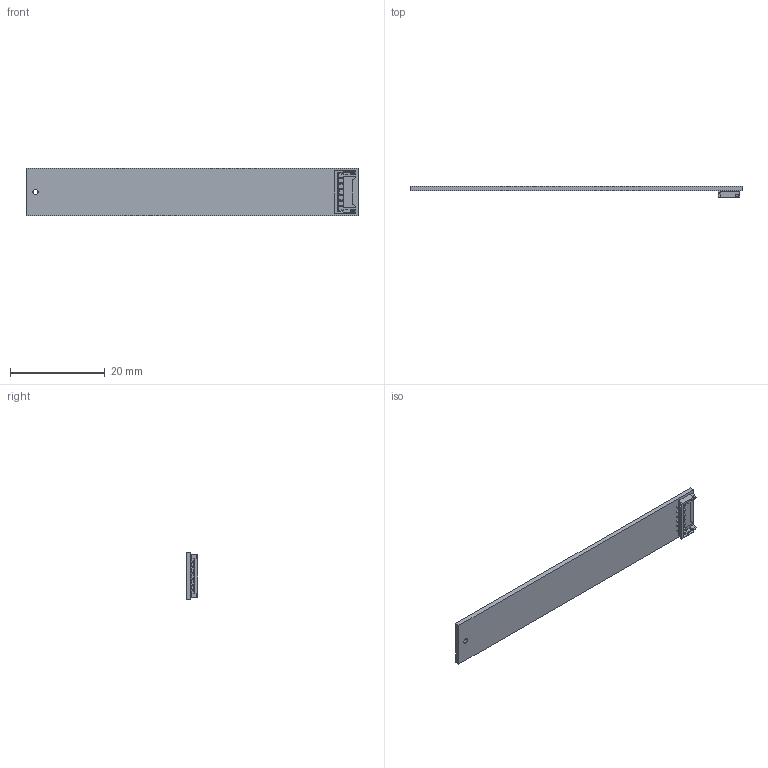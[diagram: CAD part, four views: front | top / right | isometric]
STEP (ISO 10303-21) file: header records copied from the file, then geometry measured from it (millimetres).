
FILE_DESCRIPTION (( 'STEP AP214' ), '1' );
FILE_NAME ('033-2019_0001_(50mm_B6_Linear_Sensor_3D).STEP', '2025-06-02T09:53:02', ( '' ), ( '' ), 'SwSTEP 2.0', 'SolidWorks 2024', '' );
FILE_SCHEMA (( 'AUTOMOTIVE_DESIGN' ));
Length unit declared in the file: millimetre
Products named in the file (3): 033-2019_0001_(50mm_B6_Linear_Sensor_3D); 010-0176_0001_(50mm_B6_LinearSensorPCB); 781715006
Assembly tree (2 placements, depth 2):
  033-2019_0001_(50mm_B6_Linear_Sensor_3D)
    010-0176_0001_(50mm_B6_LinearSensorPCB)
    781715006
Bounding box: 70 x 2.45 x 10 mm (x, y, z)
Volume: 717.1 mm3; surface area: 1696.9 mm2
Topology: 2 solids, 2 shells, 274 faces, 796 edges, 526 vertices
Faces by surface type: plane 264, cylinder 10
Entity records: 9036 total; most frequent: CARTESIAN_POINT 1601, ORIENTED_EDGE 1592, DIRECTION 1374, EDGE_CURVE 796, LINE 776, VECTOR 776, VERTEX_POINT 526, AXIS2_PLACEMENT_3D 299
